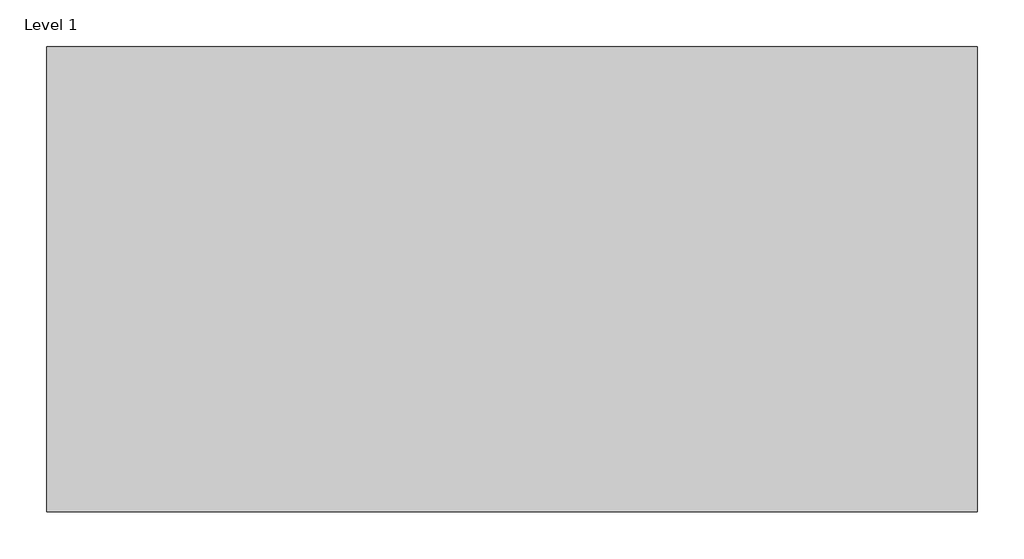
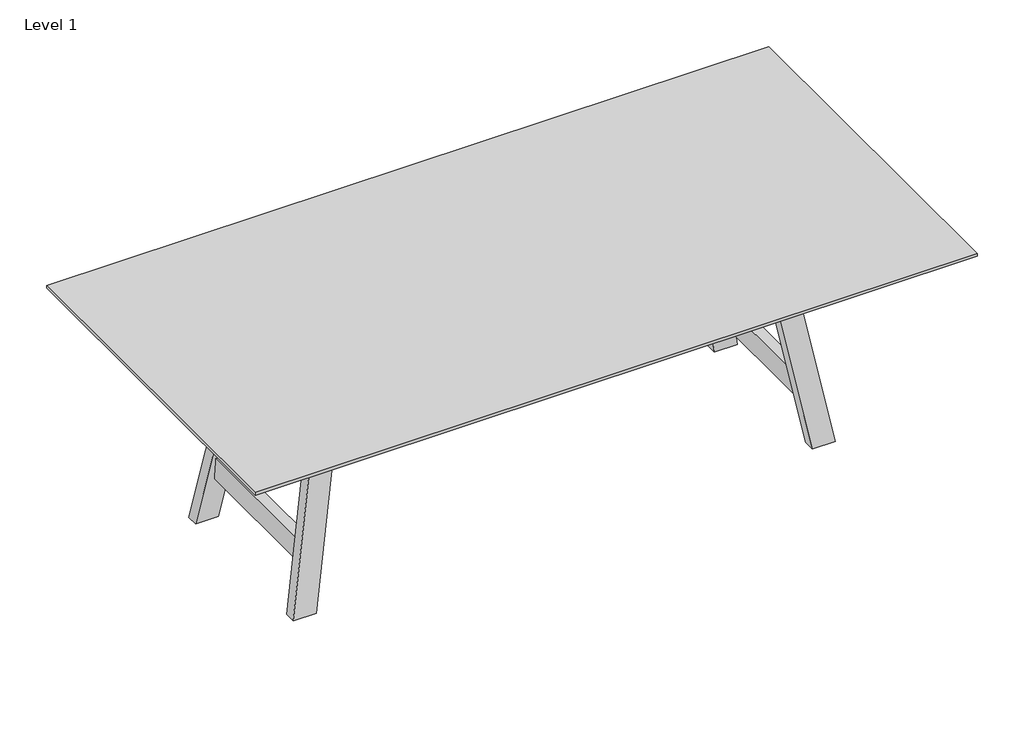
# One storey: 1 proxy.
"""IFC4 building model written with IfcOpenShell, lengths in millimetres."""

from ifc_helpers import new_model, si_unit, origin, place, context, project, spatial, transform, mapped, element, save
from components import generic_models_85c7fc78

model = new_model("IFC4")

# Units and contexts
model_context = context("Model", 3, world=origin())
ifc_project = project(units=[si_unit("LENGTHUNIT", "METRE", prefix="MILLI")], contexts=[model_context])

# Site, building, storey
site = spatial("IfcSite", under=ifc_project)
building = spatial("IfcBuilding", under=site)
storey = spatial("IfcBuildingStorey", under=building, Name="Level 1", Elevation=0.0)

# Proxy
placement = place(None, origin())
generic_models_shape = generic_models_85c7fc78(model_context)
element("IfcBuildingElementProxy", 1, Name="GRADIENT^TABLE 4A_CANTED LEGS-VERTICAL STRETCHERS", ObjectType="GRADIENT^TABLE 4A_CANTED LEGS-VERTICAL STRETCHERS", at=placement, inside=storey, context=model_context, shape_type="MappedRepresentation", body=[
    mapped(generic_models_shape, transform((0.0, -1219.2, 717.55), x_axis=(1.0, 0.0, 0.0), y_axis=(0.0, 0.0, 1.0), z_axis=(0.0, -1.0, 0.0))),
])

save(model, "model.ifc")
